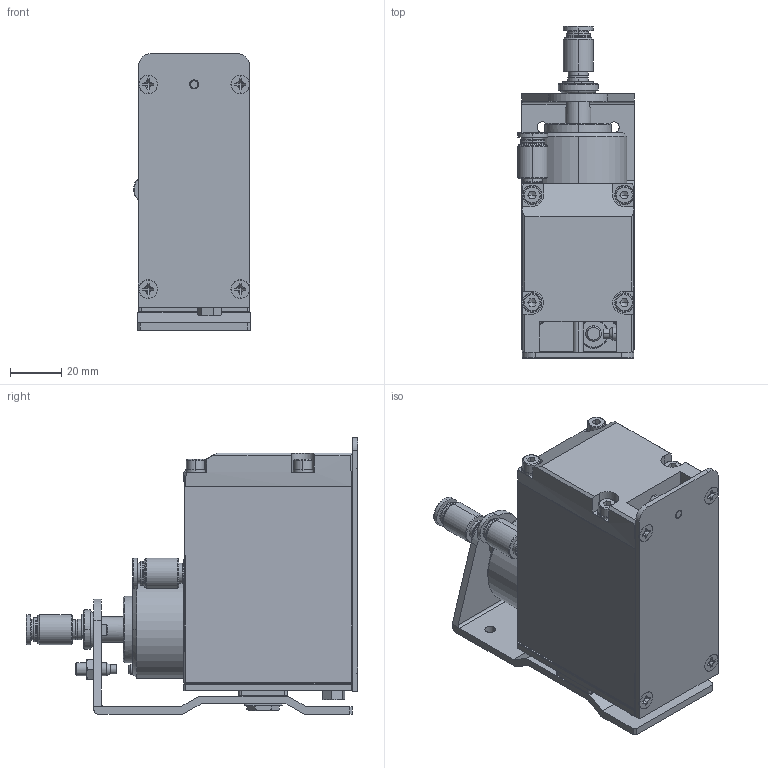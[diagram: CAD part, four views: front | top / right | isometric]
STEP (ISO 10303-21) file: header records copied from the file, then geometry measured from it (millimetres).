
FILE_DESCRIPTION (( 'STEP AP214' ), '1' );
FILE_NAME ('GT-NT20-6.STEP', '2019-11-27T09:09:50', ( '微软用户' ), ( '微软中国' ), 'SwSTEP 2.0', 'SolidWorks 2016', '' );
FILE_SCHEMA (( 'AUTOMOTIVE_DESIGN' ));
Length unit declared in the file: millimetre
Products named in the file (1): GT-NT20-6
Bounding box: 45.7 x 129.65 x 108.1 mm (x, y, z)
Surface area: 68725.3 mm2 (no closed solid volume)
Topology: 0 solids, 46 shells, 1144 faces, 2802 edges, 1770 vertices
Faces by surface type: plane 501, cylinder 320, bspline 223, cone 64, torus 36
Entity records: 49515 total; most frequent: CARTESIAN_POINT 17998, ORIENTED_EDGE 5467, DIRECTION 4674, EDGE_CURVE 2766, VERTEX_POINT 1770, AXIS2_PLACEMENT_3D 1766, EDGE_LOOP 1289, FACE_OUTER_BOUND 1144
